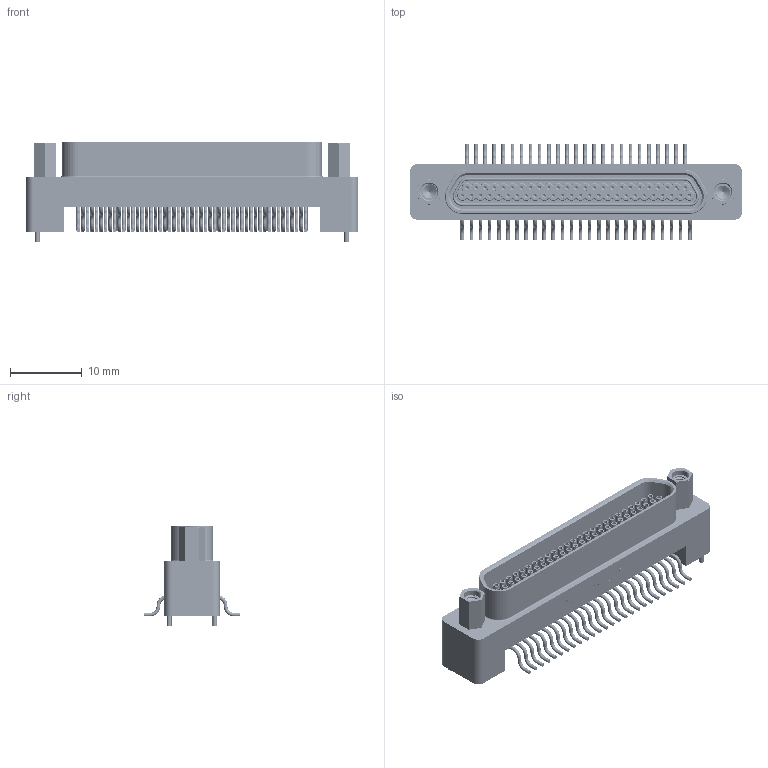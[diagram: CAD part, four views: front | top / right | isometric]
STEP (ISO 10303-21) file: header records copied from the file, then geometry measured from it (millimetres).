
FILE_DESCRIPTION (( 'STEP AP214' ), '1' );
FILE_NAME ('A99701-512 REV A.STEP', '2019-03-20T16:42:09', ( '' ), ( '' ), 'SwSTEP 2.0', 'SolidWorks 2018', '' );
FILE_SCHEMA (( 'AUTOMOTIVE_DESIGN' ));
Products named in the file (1): A99701-512 Rev A
Bounding box: 46.35 x 13.51 x 14.1 mm (x, y, z)
Volume: 2132.1 mm3; surface area: 5306.5 mm2
Topology: 1 solids, 108 shells, 2481 faces, 5511 edges, 3319 vertices
Faces by surface type: cylinder 1170, plane 537, torus 523, cone 179, bspline 72
Entity records: 79850 total; most frequent: CARTESIAN_POINT 23995, DIRECTION 12776, ORIENTED_EDGE 10798, AXIS2_PLACEMENT_3D 5452, EDGE_CURVE 5399, VERTEX_POINT 3319, CIRCLE 3042, EDGE_LOOP 2876
